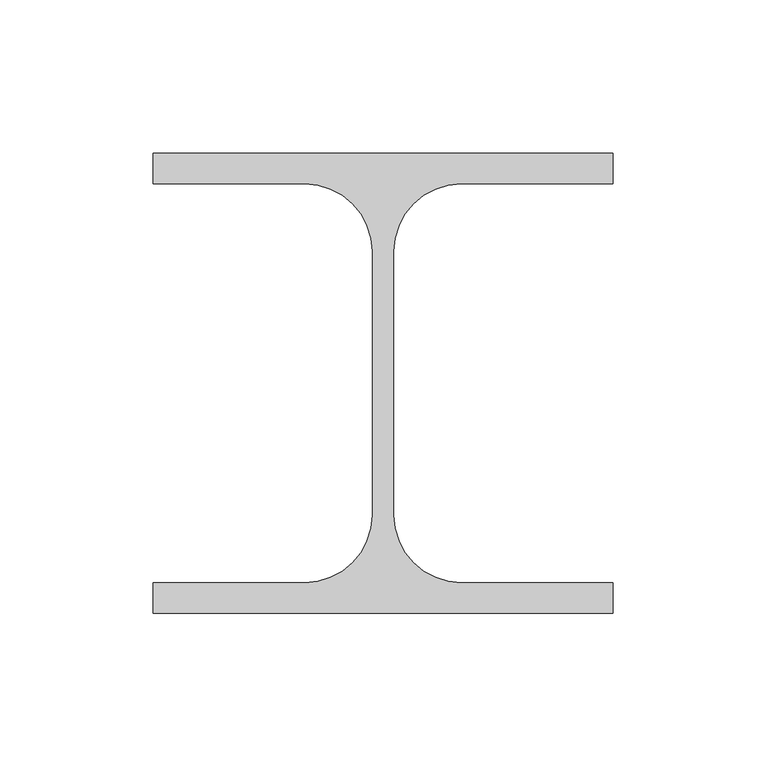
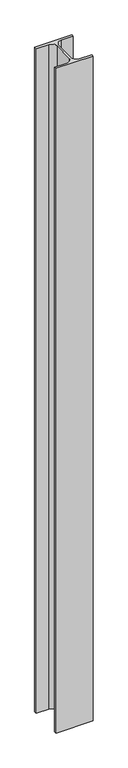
"""IFC4 building model written with IfcOpenShell, lengths in millimetres: column geometry, S柱 H型x : 階名+部材名."""

from ifc_helpers import new_model, si_unit, point, frame, frame_2d, origin, place, context, project, spatial, polyline, circle_curve, trimmed, segment, composite_curve, outline, extrude, source, transform, mapped, element, save


def column_8f7e3475(model_context):
    return source(origin(), model_context, "Body", "SweptSolid", [
        extrude(outline(composite_curve([segment(polyline([(75.0, 75.0), (75.0, 65.0), (25.5, 65.0)]), True, "CONTINUOUS"), segment(trimmed(circle_curve(frame_2d((25.5, 43.0)), 22.0), [point((25.5, 65.0))], [point((3.5, 43.0))], True, "CARTESIAN"), True, "CONTINUOUS"), segment(polyline([(3.5, 43.0), (3.5, -43.0)]), True, "CONTINUOUS"), segment(trimmed(circle_curve(frame_2d((25.5, -43.0)), 22.0), [point((3.5, -43.0))], [point((25.5, -65.0))], True, "CARTESIAN"), True, "CONTINUOUS"), segment(polyline([(25.5, -65.0), (75.0, -65.0), (75.0, -75.0), (-75.0, -75.0), (-75.0, -65.0), (-25.5, -65.0)]), True, "CONTINUOUS"), segment(trimmed(circle_curve(frame_2d((-25.5, -43.0)), 22.0), [point((-25.5, -65.0))], [point((-3.5, -43.0))], True, "CARTESIAN"), True, "CONTINUOUS"), segment(polyline([(-3.5, -43.0), (-3.5, 43.0)]), True, "CONTINUOUS"), segment(trimmed(circle_curve(frame_2d((-25.5, 43.0)), 22.0), [point((-3.5, 43.0))], [point((-25.5, 65.0))], True, "CARTESIAN"), True, "CONTINUOUS"), segment(polyline([(-25.5, 65.0), (-75.0, 65.0), (-75.0, 75.0), (75.0, 75.0)]), True, "CONTINUOUS")], self_intersect=False)), frame((0.0, 0.0, 6550.0), z_axis=(0.0, 0.0, 1.0), x_axis=(1.0, 0.0, 0.0)), (0.0, 0.0, 1.0), 2840.0),
    ])


if __name__ == "__main__":
    model = new_model("IFC4")
    model_context = context("Model", 3, world=origin())
    ifc_project = project(units=[si_unit("LENGTHUNIT", "METRE", prefix="MILLI")], contexts=[model_context])
    site = spatial("IfcSite", under=ifc_project)
    building = spatial("IfcBuilding", under=site)
    placement = place(None, origin())
    column_shape = column_8f7e3475(model_context)
    element("IfcColumn", 1, ObjectType="S柱 H型x : 階名+部材名", at=placement, inside=building, context=model_context, shape_type="MappedRepresentation", body=[
        mapped(column_shape, transform((0.0, 0.0, 0.0), x_axis=(1.0, 0.0, 0.0), y_axis=(0.0, 1.0, 0.0), z_axis=(0.0, 0.0, 1.0))),
    ])
    save(model, "model.ifc")
